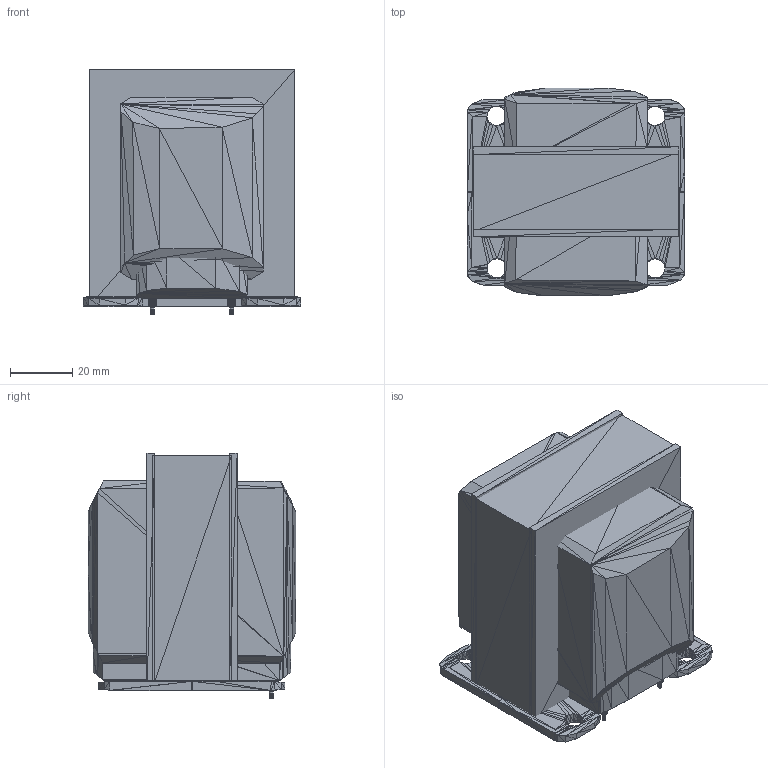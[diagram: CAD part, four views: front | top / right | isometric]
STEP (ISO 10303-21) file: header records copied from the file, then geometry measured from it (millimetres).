
FILE_DESCRIPTION(('HOOPS Exchange Step'),'2;1');
FILE_NAME('***.stp');
FILE_SCHEMA( ('AP242_MANAGED_MODEL_BASED_3D_ENGINEERING_MIM_LF {1 0 10303 442 1 1 4 }') );
Length unit declared in the file: inch
Products named in the file (12): IND5H_2; IND5H_3; IND5H_4; IND5H_5; IND5H_6; IND5H_7; IND5H_8; IND5H_9; IND5H_10; IND5H_11; IND5H_12; IND5H
Assembly tree (11 placements, depth 2):
  IND5H
    IND5H_2
    IND5H_3
    IND5H_4
    IND5H_5
    IND5H_6
    IND5H_7
    IND5H_8
    IND5H_9
    IND5H_10
    IND5H_11
    IND5H_12
Bounding box: 69.85 x 66.68 x 78.75 mm (x, y, z)
Surface area: 69633 mm2
Topology: 13 solids, 13 shells, 1368 faces, 2052 edges, 702 vertices
Faces by surface type: plane 1368
Entity records: 27234 total; most frequent: DIRECTION 4836, CARTESIAN_POINT 4146, ORIENTED_EDGE 4104, VECTOR 2052, LINE 2052, EDGE_CURVE 2052, AXIS2_PLACEMENT_3D 1392, PLANE 1368
